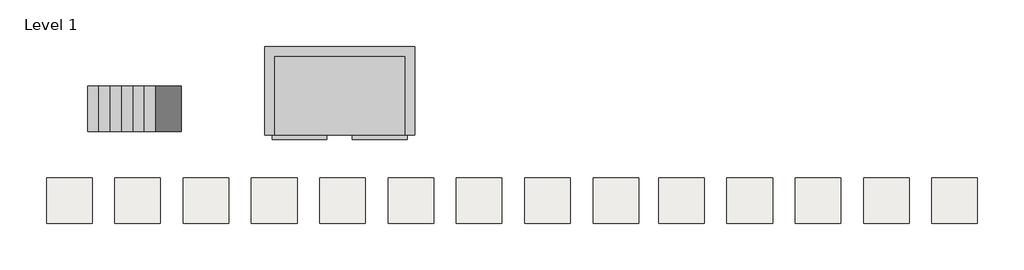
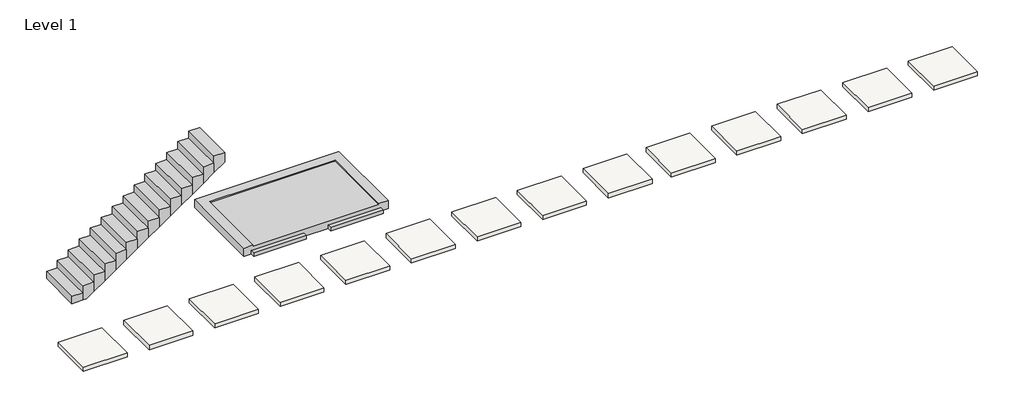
# One storey: 14 slabs, 1 proxy, 1 stair flight.
"""IFC4 building model written with IfcOpenShell, lengths in millimetres."""

from ifc_helpers import new_model, si_unit, frame, origin, place, context, project, spatial, polyline, outline, extrude, faceted_brep, transform, mapped, element, save
from components import proxy_300_24_isr_concrete_platform_double_platform_9cdc8692

model = new_model("IFC4")

# Units and contexts
model_context = context("Model", 3, world=origin())
ifc_project = project(units=[si_unit("LENGTHUNIT", "METRE", prefix="MILLI")], contexts=[model_context])

# Site, building, storey
site = spatial("IfcSite", under=ifc_project)
building = spatial("IfcBuilding", under=site)
storey = spatial("IfcBuildingStorey", under=building, Name="Level 1", Elevation=0.0)

# Proxy
placement = place(None, origin())
proxy_300_24_isr_concrete_platform_double_platform_shape = proxy_300_24_isr_concrete_platform_double_platform_9cdc8692(model_context)
element("IfcBuildingElementProxy", 1, Name="300_24_ISR_concrete_platform : double platform", ObjectType="300_24_ISR_concrete_platform : double platform", at=placement, inside=storey, context=model_context, shape_type="MappedRepresentation", body=[
    mapped(proxy_300_24_isr_concrete_platform_double_platform_shape, transform((-652.5441241, 2827.5413771, 0.0), x_axis=(1.0, 0.0, 0.0), y_axis=(0.0, 1.0, 0.0), z_axis=(0.0, 0.0, 1.0))),
])

# Slabs
element("IfcSlab", 2, ObjectType="Generic 100mm", at=placement, inside=storey, context=model_context, shape_type="SweptSolid", body=[
    extrude(outline(polyline([(-3088.5953778, 89.4387512), (-3088.5953778, -910.5612488), (-4088.5953778, -910.5612488), (-4088.5953778, 89.4387512), (-3088.5953778, 89.4387512)])), frame((0.0, 0.0, -100.0), z_axis=(0.0, 0.0, 1.0), x_axis=(1.0, 0.0, 0.0)), (0.0, 0.0, 1.0), 100.0),
])
element("IfcSlab", 3, ObjectType="Generic 100mm", at=placement, inside=storey, context=model_context, shape_type="SweptSolid", body=[
    extrude(outline(polyline([(-1588.5953778, 89.4387512), (-1588.5953778, -910.5612488), (-2588.5953778, -910.5612488), (-2588.5953778, 89.4387512), (-1588.5953778, 89.4387512)])), frame((0.0, 0.0, -100.0), z_axis=(0.0, 0.0, 1.0), x_axis=(1.0, 0.0, 0.0)), (0.0, 0.0, 1.0), 100.0),
])
element("IfcSlab", 4, ObjectType="Generic 100mm", at=placement, inside=storey, context=model_context, shape_type="SweptSolid", body=[
    extrude(outline(polyline([(-88.5953778, 89.4387512), (-88.5953778, -910.5612488), (-1088.5953778, -910.5612488), (-1088.5953778, 89.4387512), (-88.5953778, 89.4387512)])), frame((0.0, 0.0, -100.0), z_axis=(0.0, 0.0, 1.0), x_axis=(1.0, 0.0, 0.0)), (0.0, 0.0, 1.0), 100.0),
])
element("IfcSlab", 5, ObjectType="Generic 100mm", at=placement, inside=storey, context=model_context, shape_type="SweptSolid", body=[
    extrude(outline(polyline([(1411.4046222, 89.4387512), (1411.4046222, -910.5612488), (411.4046222, -910.5612488), (411.4046222, 89.4387512), (1411.4046222, 89.4387512)])), frame((0.0, 0.0, -100.0), z_axis=(0.0, 0.0, 1.0), x_axis=(1.0, 0.0, 0.0)), (0.0, 0.0, 1.0), 100.0),
])
element("IfcSlab", 6, ObjectType="Generic 100mm", at=placement, inside=storey, context=model_context, shape_type="SweptSolid", body=[
    extrude(outline(polyline([(2911.4046222, 89.4387512), (2911.4046222, -910.5612488), (1911.4046222, -910.5612488), (1911.4046222, 89.4387512), (2911.4046222, 89.4387512)])), frame((0.0, 0.0, -100.0), z_axis=(0.0, 0.0, 1.0), x_axis=(1.0, 0.0, 0.0)), (0.0, 0.0, 1.0), 100.0),
])
element("IfcSlab", 7, ObjectType="Generic 100mm", at=placement, inside=storey, context=model_context, shape_type="SweptSolid", body=[
    extrude(outline(polyline([(4411.4046222, 89.4387512), (4411.4046222, -910.5612488), (3411.4046222, -910.5612488), (3411.4046222, 89.4387512), (4411.4046222, 89.4387512)])), frame((0.0, 0.0, -100.0), z_axis=(0.0, 0.0, 1.0), x_axis=(1.0, 0.0, 0.0)), (0.0, 0.0, 1.0), 100.0),
])
element("IfcSlab", 8, ObjectType="Generic 100mm", at=placement, inside=storey, context=model_context, shape_type="SweptSolid", body=[
    extrude(outline(polyline([(5911.4046222, 89.4387512), (5911.4046222, -910.5612488), (4911.4046222, -910.5612488), (4911.4046222, 89.4387512), (5911.4046222, 89.4387512)])), frame((0.0, 0.0, -100.0), z_axis=(0.0, 0.0, 1.0), x_axis=(1.0, 0.0, 0.0)), (0.0, 0.0, 1.0), 100.0),
])
element("IfcSlab", 9, ObjectType="Generic 100mm", at=placement, inside=storey, context=model_context, shape_type="SweptSolid", body=[
    extrude(outline(polyline([(7411.4046222, 89.4387512), (7411.4046222, -910.5612488), (6411.4046222, -910.5612488), (6411.4046222, 89.4387512), (7411.4046222, 89.4387512)])), frame((0.0, 0.0, -100.0), z_axis=(0.0, 0.0, 1.0), x_axis=(1.0, 0.0, 0.0)), (0.0, 0.0, 1.0), 100.0),
])
element("IfcSlab", 10, ObjectType="Generic 100mm", at=placement, inside=storey, context=model_context, shape_type="SweptSolid", body=[
    extrude(outline(polyline([(-4588.5953778, 89.4387512), (-4588.5953778, -910.5612488), (-5588.5953778, -910.5612488), (-5588.5953778, 89.4387512), (-4588.5953778, 89.4387512)])), frame((0.0, 0.0, -100.0), z_axis=(0.0, 0.0, 1.0), x_axis=(1.0, 0.0, 0.0)), (0.0, 0.0, 1.0), 100.0),
])
element("IfcSlab", 11, ObjectType="Generic 100mm", at=placement, inside=storey, context=model_context, shape_type="SweptSolid", body=[
    extrude(outline(polyline([(8851.4046222, 89.4387512), (8851.4046222, -910.5612488), (7851.4046222, -910.5612488), (7851.4046222, 89.4387512), (8851.4046222, 89.4387512)])), frame((0.0, 0.0, -100.0), z_axis=(0.0, 0.0, 1.0), x_axis=(1.0, 0.0, 0.0)), (0.0, 0.0, 1.0), 100.0),
])
element("IfcSlab", 12, ObjectType="Generic 100mm", at=placement, inside=storey, context=model_context, shape_type="SweptSolid", body=[
    extrude(outline(polyline([(10351.4046222, 89.4387512), (10351.4046222, -910.5612488), (9351.4046222, -910.5612488), (9351.4046222, 89.4387512), (10351.4046222, 89.4387512)])), frame((0.0, 0.0, -100.0), z_axis=(0.0, 0.0, 1.0), x_axis=(1.0, 0.0, 0.0)), (0.0, 0.0, 1.0), 100.0),
])
element("IfcSlab", 13, ObjectType="Generic 100mm", at=placement, inside=storey, context=model_context, shape_type="SweptSolid", body=[
    extrude(outline(polyline([(11851.4046222, 89.4387512), (11851.4046222, -910.5612488), (10851.4046222, -910.5612488), (10851.4046222, 89.4387512), (11851.4046222, 89.4387512)])), frame((0.0, 0.0, -100.0), z_axis=(0.0, 0.0, 1.0), x_axis=(1.0, 0.0, 0.0)), (0.0, 0.0, 1.0), 100.0),
])
element("IfcSlab", 14, ObjectType="Generic 100mm", at=placement, inside=storey, context=model_context, shape_type="SweptSolid", body=[
    extrude(outline(polyline([(13351.4046222, 89.4387512), (13351.4046222, -910.5612488), (12351.4046222, -910.5612488), (12351.4046222, 89.4387512), (13351.4046222, 89.4387512)])), frame((0.0, 0.0, -100.0), z_axis=(0.0, 0.0, 1.0), x_axis=(1.0, 0.0, 0.0)), (0.0, 0.0, 1.0), 100.0),
])
element("IfcSlab", 15, ObjectType="Generic 100mm", at=placement, inside=storey, context=model_context, shape_type="SweptSolid", body=[
    extrude(outline(polyline([(14851.4046222, 89.4387512), (14851.4046222, -910.5612488), (13851.4046222, -910.5612488), (13851.4046222, 89.4387512), (14851.4046222, 89.4387512)])), frame((0.0, 0.0, -100.0), z_axis=(0.0, 0.0, 1.0), x_axis=(1.0, 0.0, 0.0)), (0.0, 0.0, 1.0), 100.0),
])

# Stair flight
element("IfcStairFlight", 16, ObjectType="190mm Depth", at=placement, inside=storey, context=model_context, shape_type="Brep", body=[
    faceted_brep([(-4438.5953778, 2107.5413771, 173.9130435), (-4688.5953778, 2107.5413771, 173.9130435), (-4688.5953778, 1107.5413771, 173.9130435), (-4438.5953778, 1107.5413771, 173.9130435), (-4438.5953778, 2107.5413771, 0.0), (-4688.5953778, 2107.5413771, 0.0), (-4688.5953778, 1107.5413771, 0.0), (-4438.5953778, 1107.5413771, 0.0), (-4188.5953778, 2107.5413771, 347.826087), (-4438.5953778, 2107.5413771, 347.826087), (-4438.5953778, 1107.5413771, 347.826087), (-4188.5953778, 1107.5413771, 347.826087), (-4188.5953778, 2107.5413771, 116.3742706), (-4355.8833918, 2107.5413771, 0.0), (-4355.8833918, 1107.5413771, 0.0), (-4188.5953778, 1107.5413771, 116.3742706), (-3938.5953778, 2107.5413771, 521.7391304), (-4188.5953778, 2107.5413771, 521.7391304), (-4188.5953778, 1107.5413771, 521.7391304), (-3938.5953778, 1107.5413771, 521.7391304), (-3938.5953778, 2107.5413771, 290.2873141), (-3938.5953778, 1107.5413771, 290.2873141), (-3688.5953778, 2107.5413771, 695.6521739), (-3938.5953778, 2107.5413771, 695.6521739), (-3938.5953778, 1107.5413771, 695.6521739), (-3688.5953778, 1107.5413771, 695.6521739), (-3688.5953778, 2107.5413771, 464.2003576), (-3688.5953778, 1107.5413771, 464.2003576), (-3438.5953778, 2107.5413771, 869.5652174), (-3688.5953778, 2107.5413771, 869.5652174), (-3688.5953778, 1107.5413771, 869.5652174), (-3438.5953778, 1107.5413771, 869.5652174), (-3438.5953778, 2107.5413771, 638.113401), (-3438.5953778, 1107.5413771, 638.113401), (-3188.5953778, 2107.5413771, 1043.4782609), (-3438.5953778, 2107.5413771, 1043.4782609), (-3438.5953778, 1107.5413771, 1043.4782609), (-3188.5953778, 1107.5413771, 1043.4782609), (-3188.5953778, 2107.5413771, 812.0264445), (-3188.5953778, 1107.5413771, 812.0264445), (-2938.5953778, 2107.5413771, 1217.3913043), (-3188.5953778, 2107.5413771, 1217.3913043), (-3188.5953778, 1107.5413771, 1217.3913043), (-2938.5953778, 1107.5413771, 1217.3913043), (-2938.5953778, 2107.5413771, 985.939488), (-2938.5953778, 1107.5413771, 985.939488), (-2688.5953778, 2107.5413771, 1391.3043478), (-2938.5953778, 2107.5413771, 1391.3043478), (-2938.5953778, 1107.5413771, 1391.3043478), (-2688.5953778, 1107.5413771, 1391.3043478), (-2688.5953778, 2107.5413771, 1159.8525315), (-2688.5953778, 1107.5413771, 1159.8525315), (-2438.5953778, 2107.5413771, 1565.2173913), (-2688.5953778, 2107.5413771, 1565.2173913), (-2688.5953778, 1107.5413771, 1565.2173913), (-2438.5953778, 1107.5413771, 1565.2173913), (-2438.5953778, 2107.5413771, 1333.765575), (-2438.5953778, 1107.5413771, 1333.765575), (-2188.5953778, 2107.5413771, 1739.1304348), (-2438.5953778, 2107.5413771, 1739.1304348), (-2438.5953778, 1107.5413771, 1739.1304348), (-2188.5953778, 1107.5413771, 1739.1304348), (-2188.5953778, 2107.5413771, 1507.6786184), (-2188.5953778, 1107.5413771, 1507.6786184), (-1938.5953778, 2107.5413771, 1913.0434783), (-2188.5953778, 2107.5413771, 1913.0434783), (-2188.5953778, 1107.5413771, 1913.0434783), (-1938.5953778, 1107.5413771, 1913.0434783), (-1938.5953778, 2107.5413771, 1681.5916619), (-1938.5953778, 1107.5413771, 1681.5916619), (-1688.5953778, 2107.5413771, 2086.9565217), (-1938.5953778, 2107.5413771, 2086.9565217), (-1938.5953778, 1107.5413771, 2086.9565217), (-1688.5953778, 1107.5413771, 2086.9565217), (-1688.5953778, 2107.5413771, 1855.5047054), (-1688.5953778, 1107.5413771, 1855.5047054), (-1438.5953778, 2107.5413771, 2260.8695652), (-1688.5953778, 2107.5413771, 2260.8695652), (-1688.5953778, 1107.5413771, 2260.8695652), (-1438.5953778, 1107.5413771, 2260.8695652), (-1438.5953778, 2107.5413771, 2029.4177489), (-1438.5953778, 1107.5413771, 2029.4177489), (-1188.5953778, 2107.5413771, 2203.3307924), (-1188.5953778, 1107.5413771, 2203.3307924), (-1188.5953778, 2107.5413771, 2434.7826087), (-1438.5953778, 2107.5413771, 2434.7826087), (-1438.5953778, 1107.5413771, 2434.7826087), (-1188.5953778, 1107.5413771, 2434.7826087)], [[[0, 1, 2, 3]], [[1, 0, 4, 5]], [[2, 1, 5, 6]], [[3, 2, 6, 7]], [[8, 9, 10, 11]], [[4, 0, 9, 8, 12, 13]], [[0, 3, 10, 9]], [[3, 7, 14, 15, 11, 10]], [[16, 17, 18, 19]], [[17, 16, 20, 12, 8]], [[8, 11, 18, 17]], [[19, 18, 11, 15, 21]], [[22, 23, 24, 25]], [[23, 22, 26, 20, 16]], [[16, 19, 24, 23]], [[25, 24, 19, 21, 27]], [[28, 29, 30, 31]], [[29, 28, 32, 26, 22]], [[22, 25, 30, 29]], [[31, 30, 25, 27, 33]], [[34, 35, 36, 37]], [[35, 34, 38, 32, 28]], [[28, 31, 36, 35]], [[37, 36, 31, 33, 39]], [[40, 41, 42, 43]], [[41, 40, 44, 38, 34]], [[34, 37, 42, 41]], [[43, 42, 37, 39, 45]], [[46, 47, 48, 49]], [[47, 46, 50, 44, 40]], [[40, 43, 48, 47]], [[49, 48, 43, 45, 51]], [[52, 53, 54, 55]], [[53, 52, 56, 50, 46]], [[46, 49, 54, 53]], [[55, 54, 49, 51, 57]], [[58, 59, 60, 61]], [[59, 58, 62, 56, 52]], [[52, 55, 60, 59]], [[61, 60, 55, 57, 63]], [[64, 65, 66, 67]], [[65, 64, 68, 62, 58]], [[58, 61, 66, 65]], [[67, 66, 61, 63, 69]], [[70, 71, 72, 73]], [[71, 70, 74, 68, 64]], [[64, 67, 72, 71]], [[73, 72, 67, 69, 75]], [[76, 77, 78, 79]], [[77, 76, 80, 74, 70]], [[70, 73, 78, 77]], [[79, 78, 73, 75, 81]], [[5, 4, 13, 14, 7, 6]], [[14, 13, 12, 20, 26, 32, 38, 44, 50, 56, 62, 68, 74, 80, 82, 83, 81, 75, 69, 63, 57, 51, 45, 39, 33, 27, 21, 15]], [[84, 85, 86, 87]], [[85, 84, 82, 80, 76]], [[76, 79, 86, 85]], [[87, 86, 79, 81, 83]], [[84, 87, 83, 82]]]),
])

save(model, "model.ifc")
